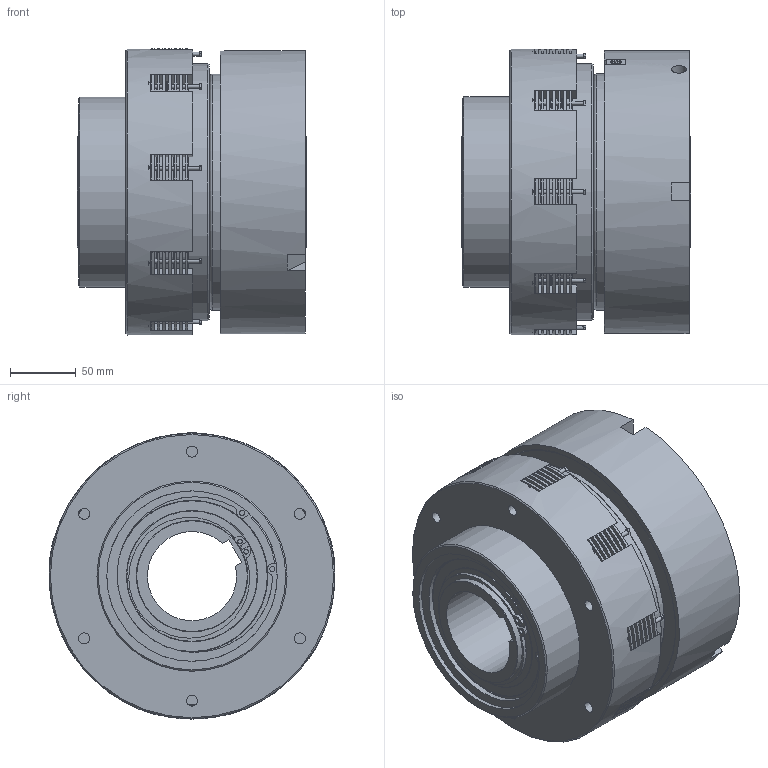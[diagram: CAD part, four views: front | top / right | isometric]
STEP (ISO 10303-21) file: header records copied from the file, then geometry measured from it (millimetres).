
FILE_DESCRIPTION((''),'2;1');
FILE_NAME('\\Srv-tecnico\dati\UFFICIO TECNICO\ARCHIVIO INVENTOR\DISEGNI\UFFICIO TECNICO\03_Friz_Oleodinamiche e Pneumatiche_Cilindro_Statico\03_06 LPR\03_06_010_01 LPR10\03_06_010_01 LPR10_Sostituto_1.stp','2012-12-12T12:03:06',('ivan'),(''),'Autodesk Inventor 2010','Autodesk Inventor 2010','');
FILE_SCHEMA(('CONFIG_CONTROL_DESIGN'));
Length unit declared in the file: millimetre
Products named in the file (1): 03_06_010_01 LPR10_Sostituto_1
Bounding box: 175 x 218 x 218.2 mm (x, y, z)
Volume: 4195988.8 mm3; surface area: 1215643.5 mm2
Topology: 36 solids, 36 shells, 1141 faces, 3264 edges, 2139 vertices
Faces by surface type: plane 524, cylinder 374, torus 98, cone 67, bspline 41, sphere 37
Full cylindrical faces by diameter (mm): 3 x9, 4 x66, 7 x1, 11.445 x1, 81.5 x3, 85 x7, 96 x1, 99.4 x8, 115.6 x8, 116 x1, 120 x11, 130 x5, 134 x2, 139.2 x4, 140 x3, 145 x1, 149.5 x1, 156 x1, 160.8 x4, 166 x1, 170 x1, 178 x1, 180 x2, 196 x1, 197 x6, 200 x1, 206 x1, 216 x1, 218 x1
Entity records: 44387 total; most frequent: CARTESIAN_POINT 15691, DIRECTION 5796, ORIENTED_EDGE 5642, EDGE_CURVE 2821, AXIS2_PLACEMENT_3D 2251, VERTEX_POINT 1978, EDGE_LOOP 1647, VECTOR 1294
